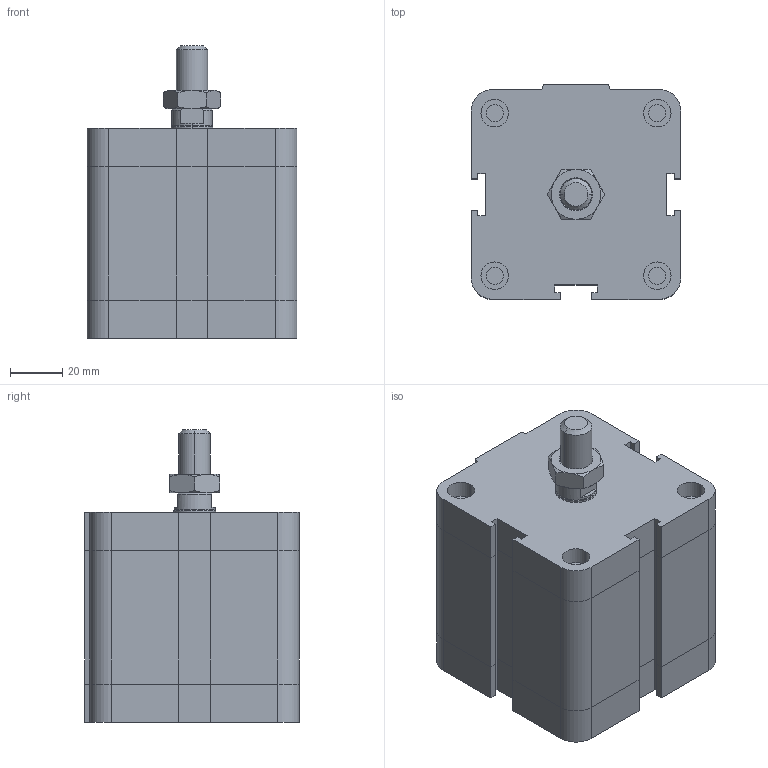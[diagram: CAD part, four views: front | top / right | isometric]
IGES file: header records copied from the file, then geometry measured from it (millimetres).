
Global section: file name: No Iges File Name specified; native system: Autodesk Inventor 2009; preprocessor: AutoDesk Inventor Iges Exporter R2009; author: rivolro1; date: 20081219.162431; units: millimetre
Bounding box: 80 x 82 x 111.5 mm (x, y, z)
Volume: 488983.9 mm3; surface area: 53739 mm2
Topology: 3 solids, 3 shells, 216 faces, 472 edges, 282 vertices
Faces by surface type: plane 121, bspline 37, cylinder 20, cone 20, revolution 18
